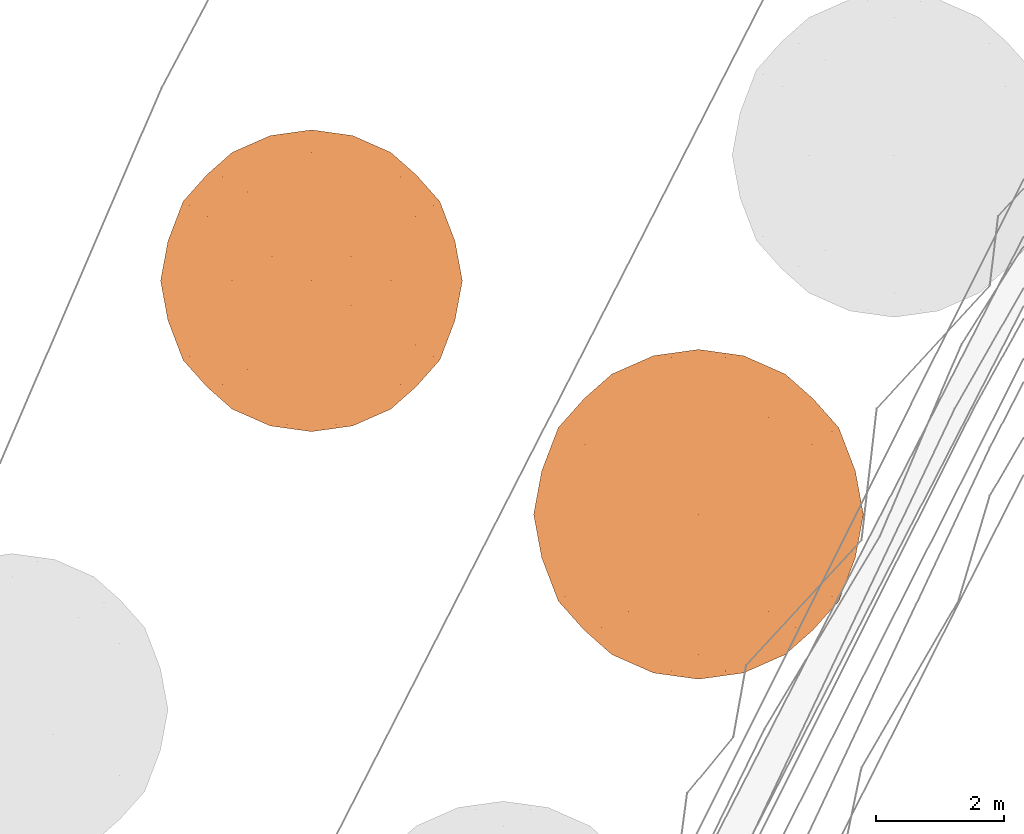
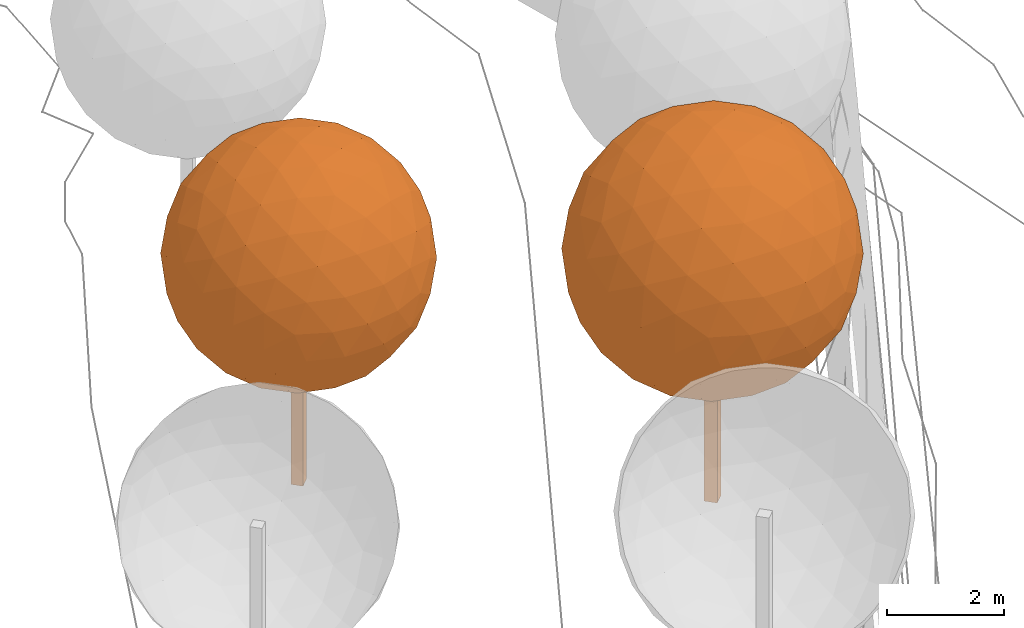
# Not in any storey, part 380 of 477: 2 geographic elements.
"""IFC4 model written with IfcOpenShell, lengths in metres."""

from ifc_helpers import new_model, si_unit, frame, origin_with_axes, place, context, subcontext, project, spatial, polygons, element, save


model = new_model("IFC4")

# Units and contexts
model_context = context("Model", 3, precision=1e-05, world=origin_with_axes())
body_context = subcontext(model_context, "Body", "Model", "MODEL_VIEW")
ifc_project = project(units=[si_unit("AREAUNIT", "SQUARE_METRE"), si_unit("LENGTHUNIT", "METRE")], contexts=[model_context])

# Sites
site_1_placement = place(None, origin_with_axes())
site_1 = spatial("IfcSite", under=ifc_project, at=site_1_placement, Name="Topoexport Site")
site_2_placement = place(site_1_placement, origin_with_axes())
site_2 = spatial("IfcSite", under=site_1, at=site_2_placement, Name="TPX_TREES")

# Geographic elements
geographic_element_1_placement = place(site_2_placement, frame((297.0957320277, 291.1657342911, 539.4397781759), z_axis=(0.0, 0.0, 1.0), x_axis=(1.0, 0.0, 0.0)))
element("IfcGeographicElement", 1, at=geographic_element_1_placement, inside=site_2, Name="Tree TR1 CD47", ObjectType="VEGETATION", PredefinedType="USERDEFINED", context=body_context, shape_type="Tessellation", body=[
    polygons([(0.0, -0.1498275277, 0.0), (-0.1498275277, 0.0, 0.0), (0.0, 0.1498275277, 0.0), (0.1498275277, 0.0, 0.0), (0.0, -0.1498275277, 4.7069706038), (-0.1498275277, 0.0, 4.7069706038), (0.0, 0.1498275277, 4.7069706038), (0.1498275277, 0.0, 4.7069706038)], [[[3, 4, 1]], [[1, 2, 3]], [[5, 8, 7]], [[7, 6, 5]], [[5, 6, 1]], [[1, 6, 2]], [[6, 7, 2]], [[2, 7, 3]], [[8, 5, 4]], [[4, 5, 1]], [[7, 8, 3]], [[3, 8, 4]]]),
    polygons([(-1.2373004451, 2.0019941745, 4.7069706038), (1.2373004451, 2.0019941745, 4.7069706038), (-1.2373004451, -2.0019941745, 4.7069706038), (1.2373004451, -2.0019941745, 4.7069706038), (0.0, -1.2373004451, 6.7089647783), (0.0, 1.2373004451, 6.7089647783), (0.0, -1.2373004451, 2.7049764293), (0.0, 1.2373004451, 2.7049764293), (2.0019941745, 0.0, 3.4696701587), (2.0019941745, 0.0, 5.9442710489), (-2.0019941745, 0.0, 3.4696701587), (-2.0019941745, 0.0, 5.9442710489), (0.0, 2.3534853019, 4.7069706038), (0.0, -2.3534853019, 4.7069706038), (-0.7272669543, -1.9040096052, 5.8837132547), (0.7272669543, -1.9040096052, 5.8837132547), (-0.7272669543, 1.9040096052, 5.8837132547), (0.7272669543, 1.9040096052, 5.8837132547), (0.0, 0.0, 7.0604559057), (-0.7272669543, -1.9040096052, 3.5302279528), (0.7272669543, -1.9040096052, 3.5302279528), (-0.7272669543, 1.9040096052, 3.5302279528), (0.7272669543, 1.9040096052, 3.5302279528), (0.0, 0.0, 2.3534853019), (1.9040096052, 1.1767426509, 3.9797036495), (1.9040096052, -1.1767426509, 3.9797036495), (1.1767426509, -0.7272669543, 2.8029609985), (1.1767426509, 0.7272669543, 2.8029609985), (1.9040096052, 1.1767426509, 5.4342375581), (1.9040096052, -1.1767426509, 5.4342375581), (1.1767426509, -0.7272669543, 6.610980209), (1.1767426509, 0.7272669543, 6.610980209), (2.3534853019, 0.0, 4.7069706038), (-1.9040096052, 1.1767426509, 3.9797036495), (-1.9040096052, -1.1767426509, 3.9797036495), (-1.1767426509, -0.7272669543, 2.8029609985), (-1.1767426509, 0.7272669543, 2.8029609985), (-1.9040096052, 1.1767426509, 5.4342375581), (-1.9040096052, -1.1767426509, 5.4342375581), (-1.1767426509, -0.7272669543, 6.610980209), (-1.1767426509, 0.7272669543, 6.610980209), (-2.3534853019, 0.0, 4.7069706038), (-0.6431287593, 2.2639077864, 4.7069706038), (0.6431287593, 2.2639077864, 4.7069706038), (-0.6431287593, -2.2639077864, 4.7069706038), (0.6431287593, -2.2639077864, 4.7069706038), (-1.0211503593, -2.0302775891, 5.3186224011), (-0.3780216, -1.6328021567, 6.3592265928), (-0.3823468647, -2.2382975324, 5.3256208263), (1.0211503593, -2.0302775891, 5.3186224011), (0.3780216, -1.6328021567, 6.3592265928), (0.3823468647, -2.2382975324, 5.3256208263), (0.0, -2.0019941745, 5.9442710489), (-1.0211503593, 2.0302775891, 5.3186224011), (-0.3780216, 1.6328021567, 6.3592265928), (-0.3823468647, 2.2382975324, 5.3256208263), (1.0211503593, 2.0302775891, 5.3186224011), (0.3780216, 1.6328021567, 6.3592265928), (0.3823468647, 2.2382975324, 5.3256208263), (0.0, 2.0019941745, 5.9442710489), (0.0, -0.6431287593, 6.9708783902), (0.0, 0.6431287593, 6.9708783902), (-1.0211503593, -2.0302775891, 4.0953188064), (-0.3780216, -1.6328021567, 3.0547146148), (-0.3823468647, -2.2382975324, 4.0883203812), (1.0211503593, -2.0302775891, 4.0953188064), (0.3780216, -1.6328021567, 3.0547146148), (0.3823468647, -2.2382975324, 4.0883203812), (0.0, -2.0019941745, 3.4696701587), (-1.0211503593, 2.0302775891, 4.0953188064), (-0.3780216, 1.6328021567, 3.0547146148), (-0.3823468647, 2.2382975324, 4.0883203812), (1.0211503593, 2.0302775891, 4.0953188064), (0.3780216, 1.6328021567, 3.0547146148), (0.3823468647, 2.2382975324, 4.0883203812), (0.0, 2.0019941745, 3.4696701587), (0.0, -0.6431287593, 2.4430628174), (0.0, 0.6431287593, 2.4430628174), (1.6328021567, 1.652255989, 4.3289490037), (2.0302775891, 0.6116517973, 3.6858202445), (1.3833439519, 1.6196473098, 3.7059735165), (1.6328021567, -1.652255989, 4.3289490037), (2.0302775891, -0.6116517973, 3.6858202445), (1.3833439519, -1.6196473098, 3.7059735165), (0.6116517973, -1.0211503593, 2.6766930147), (1.652255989, -0.3780216, 3.0741684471), (1.0009970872, -1.3833439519, 3.087323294), (0.6186502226, -0.3823468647, 2.4686730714), (1.6196473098, -1.0009970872, 3.3236266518), (0.6116517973, 1.0211503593, 2.6766930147), (1.652255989, 0.3780216, 3.0741684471), (1.0009970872, 1.3833439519, 3.087323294), (0.6186502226, 0.3823468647, 2.4686730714), (1.6196473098, 1.0009970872, 3.3236266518), (1.2373004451, 0.0, 2.7049764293), (1.6328021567, 1.652255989, 5.0849922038), (2.0302775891, 0.6116517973, 5.7281209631), (1.3833439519, 1.6196473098, 5.707967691), (2.0019941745, 1.2373004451, 4.7069706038), (1.6328021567, -1.652255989, 5.0849922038), (2.0302775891, -0.6116517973, 5.7281209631), (1.3833439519, -1.6196473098, 5.707967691), (2.0019941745, -1.2373004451, 4.7069706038), (0.6116517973, -1.0211503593, 6.7372481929), (1.652255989, -0.3780216, 6.3397727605), (1.0009970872, -1.3833439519, 6.3266179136), (0.6186502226, -0.3823468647, 6.9452681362), (1.6196473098, -1.0009970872, 6.0903145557), (0.6116517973, 1.0211503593, 6.7372481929), (1.652255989, 0.3780216, 6.3397727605), (1.0009970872, 1.3833439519, 6.3266179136), (0.6186502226, 0.3823468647, 6.9452681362), (1.6196473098, 1.0009970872, 6.0903145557), (1.2373004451, 0.0, 6.7089647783), (2.2639077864, 0.0, 4.0638418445), (2.2639077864, 0.0, 5.3500993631), (2.2382975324, 0.6186502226, 4.3246237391), (2.2382975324, -0.6186502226, 4.3246237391), (2.2382975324, 0.6186502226, 5.0893174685), (2.2382975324, -0.6186502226, 5.0893174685), (-1.6328021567, 1.652255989, 4.3289490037), (-2.0302775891, 0.6116517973, 3.6858202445), (-1.3833439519, 1.6196473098, 3.7059735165), (-1.6328021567, -1.652255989, 4.3289490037), (-2.0302775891, -0.6116517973, 3.6858202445), (-1.3833439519, -1.6196473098, 3.7059735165), (-0.6116517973, -1.0211503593, 2.6766930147), (-1.652255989, -0.3780216, 3.0741684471), (-1.0009970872, -1.3833439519, 3.087323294), (-0.6186502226, -0.3823468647, 2.4686730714), (-1.6196473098, -1.0009970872, 3.3236266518), (-0.6116517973, 1.0211503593, 2.6766930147), (-1.652255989, 0.3780216, 3.0741684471), (-1.0009970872, 1.3833439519, 3.087323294), (-0.6186502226, 0.3823468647, 2.4686730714), (-1.6196473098, 1.0009970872, 3.3236266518), (-1.2373004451, 0.0, 2.7049764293), (-1.6328021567, 1.652255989, 5.0849922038), (-2.0302775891, 0.6116517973, 5.7281209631), (-1.3833439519, 1.6196473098, 5.707967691), (-2.0019941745, 1.2373004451, 4.7069706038), (-1.6328021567, -1.652255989, 5.0849922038), (-2.0302775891, -0.6116517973, 5.7281209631), (-1.3833439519, -1.6196473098, 5.707967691), (-2.0019941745, -1.2373004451, 4.7069706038), (-0.6116517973, -1.0211503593, 6.7372481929), (-1.652255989, -0.3780216, 6.3397727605), (-1.0009970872, -1.3833439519, 6.3266179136), (-0.6186502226, -0.3823468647, 6.9452681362), (-1.6196473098, -1.0009970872, 6.0903145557), (-0.6116517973, 1.0211503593, 6.7372481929), (-1.652255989, 0.3780216, 6.3397727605), (-1.0009970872, 1.3833439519, 6.3266179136), (-0.6186502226, 0.3823468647, 6.9452681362), (-1.6196473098, 1.0009970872, 6.0903145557), (-1.2373004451, 0.0, 6.7089647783), (-2.2639077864, 0.0, 4.0638418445), (-2.2639077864, 0.0, 5.3500993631), (-2.2382975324, 0.6186502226, 4.3246237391), (-2.2382975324, -0.6186502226, 4.3246237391), (-2.2382975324, 0.6186502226, 5.0893174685), (-2.2382975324, -0.6186502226, 5.0893174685)], [[[1, 138, 54]], [[138, 38, 140]], [[54, 140, 17]], [[138, 140, 54]], [[38, 139, 155]], [[139, 12, 152]], [[155, 152, 41]], [[139, 152, 155]], [[17, 153, 55]], [[153, 41, 151]], [[55, 151, 6]], [[153, 151, 55]], [[38, 155, 140]], [[155, 41, 153]], [[140, 153, 17]], [[155, 153, 140]], [[1, 54, 43]], [[54, 17, 56]], [[43, 56, 13]], [[54, 56, 43]], [[17, 55, 60]], [[55, 6, 58]], [[60, 58, 18]], [[55, 58, 60]], [[13, 59, 44]], [[59, 18, 57]], [[44, 57, 2]], [[59, 57, 44]], [[17, 60, 56]], [[60, 18, 59]], [[56, 59, 13]], [[60, 59, 56]], [[1, 43, 70]], [[43, 13, 72]], [[70, 72, 22]], [[43, 72, 70]], [[13, 44, 75]], [[44, 2, 73]], [[75, 73, 23]], [[44, 73, 75]], [[22, 76, 71]], [[76, 23, 74]], [[71, 74, 8]], [[76, 74, 71]], [[13, 75, 72]], [[75, 23, 76]], [[72, 76, 22]], [[75, 76, 72]], [[1, 70, 121]], [[70, 22, 123]], [[121, 123, 34]], [[70, 123, 121]], [[22, 71, 134]], [[71, 8, 132]], [[134, 132, 37]], [[71, 132, 134]], [[34, 136, 122]], [[136, 37, 133]], [[122, 133, 11]], [[136, 133, 122]], [[22, 134, 123]], [[134, 37, 136]], [[123, 136, 34]], [[134, 136, 123]], [[1, 121, 138]], [[121, 34, 141]], [[138, 141, 38]], [[121, 141, 138]], [[34, 122, 159]], [[122, 11, 157]], [[159, 157, 42]], [[122, 157, 159]], [[38, 161, 139]], [[161, 42, 158]], [[139, 158, 12]], [[161, 158, 139]], [[34, 159, 141]], [[159, 42, 161]], [[141, 161, 38]], [[159, 161, 141]], [[2, 57, 96]], [[57, 18, 98]], [[96, 98, 29]], [[57, 98, 96]], [[18, 58, 111]], [[58, 6, 109]], [[111, 109, 32]], [[58, 109, 111]], [[29, 113, 97]], [[113, 32, 110]], [[97, 110, 10]], [[113, 110, 97]], [[18, 111, 98]], [[111, 32, 113]], [[98, 113, 29]], [[111, 113, 98]], [[6, 151, 62]], [[151, 41, 154]], [[62, 154, 19]], [[151, 154, 62]], [[41, 152, 156]], [[152, 12, 147]], [[156, 147, 40]], [[152, 147, 156]], [[19, 149, 61]], [[149, 40, 146]], [[61, 146, 5]], [[149, 146, 61]], [[41, 156, 154]], [[156, 40, 149]], [[154, 149, 19]], [[156, 149, 154]], [[12, 158, 143]], [[158, 42, 162]], [[143, 162, 39]], [[158, 162, 143]], [[42, 157, 160]], [[157, 11, 125]], [[160, 125, 35]], [[157, 125, 160]], [[39, 145, 142]], [[145, 35, 124]], [[142, 124, 3]], [[145, 124, 142]], [[42, 160, 162]], [[160, 35, 145]], [[162, 145, 39]], [[160, 145, 162]], [[11, 133, 128]], [[133, 37, 137]], [[128, 137, 36]], [[133, 137, 128]], [[37, 132, 135]], [[132, 8, 78]], [[135, 78, 24]], [[132, 78, 135]], [[36, 130, 127]], [[130, 24, 77]], [[127, 77, 7]], [[130, 77, 127]], [[37, 135, 137]], [[135, 24, 130]], [[137, 130, 36]], [[135, 130, 137]], [[8, 74, 90]], [[74, 23, 92]], [[90, 92, 28]], [[74, 92, 90]], [[23, 73, 81]], [[73, 2, 79]], [[81, 79, 25]], [[73, 79, 81]], [[28, 94, 91]], [[94, 25, 80]], [[91, 80, 9]], [[94, 80, 91]], [[23, 81, 92]], [[81, 25, 94]], [[92, 94, 28]], [[81, 94, 92]], [[4, 100, 50]], [[100, 30, 102]], [[50, 102, 16]], [[100, 102, 50]], [[30, 101, 108]], [[101, 10, 105]], [[108, 105, 31]], [[101, 105, 108]], [[16, 106, 51]], [[106, 31, 104]], [[51, 104, 5]], [[106, 104, 51]], [[30, 108, 102]], [[108, 31, 106]], [[102, 106, 16]], [[108, 106, 102]], [[4, 50, 46]], [[50, 16, 52]], [[46, 52, 14]], [[50, 52, 46]], [[16, 51, 53]], [[51, 5, 48]], [[53, 48, 15]], [[51, 48, 53]], [[14, 49, 45]], [[49, 15, 47]], [[45, 47, 3]], [[49, 47, 45]], [[16, 53, 52]], [[53, 15, 49]], [[52, 49, 14]], [[53, 49, 52]], [[4, 46, 66]], [[46, 14, 68]], [[66, 68, 21]], [[46, 68, 66]], [[14, 45, 65]], [[45, 3, 63]], [[65, 63, 20]], [[45, 63, 65]], [[21, 69, 67]], [[69, 20, 64]], [[67, 64, 7]], [[69, 64, 67]], [[14, 65, 68]], [[65, 20, 69]], [[68, 69, 21]], [[65, 69, 68]], [[4, 66, 82]], [[66, 21, 84]], [[82, 84, 26]], [[66, 84, 82]], [[21, 67, 87]], [[67, 7, 85]], [[87, 85, 27]], [[67, 85, 87]], [[26, 89, 83]], [[89, 27, 86]], [[83, 86, 9]], [[89, 86, 83]], [[21, 87, 84]], [[87, 27, 89]], [[84, 89, 26]], [[87, 89, 84]], [[4, 82, 100]], [[82, 26, 103]], [[100, 103, 30]], [[82, 103, 100]], [[26, 83, 118]], [[83, 9, 115]], [[118, 115, 33]], [[83, 115, 118]], [[30, 120, 101]], [[120, 33, 116]], [[101, 116, 10]], [[120, 116, 101]], [[26, 118, 103]], [[118, 33, 120]], [[103, 120, 30]], [[118, 120, 103]], [[5, 104, 61]], [[104, 31, 107]], [[61, 107, 19]], [[104, 107, 61]], [[31, 105, 114]], [[105, 10, 110]], [[114, 110, 32]], [[105, 110, 114]], [[19, 112, 62]], [[112, 32, 109]], [[62, 109, 6]], [[112, 109, 62]], [[31, 114, 107]], [[114, 32, 112]], [[107, 112, 19]], [[114, 112, 107]], [[3, 47, 142]], [[47, 15, 144]], [[142, 144, 39]], [[47, 144, 142]], [[15, 48, 148]], [[48, 5, 146]], [[148, 146, 40]], [[48, 146, 148]], [[39, 150, 143]], [[150, 40, 147]], [[143, 147, 12]], [[150, 147, 143]], [[15, 148, 144]], [[148, 40, 150]], [[144, 150, 39]], [[148, 150, 144]], [[7, 64, 127]], [[64, 20, 129]], [[127, 129, 36]], [[64, 129, 127]], [[20, 63, 126]], [[63, 3, 124]], [[126, 124, 35]], [[63, 124, 126]], [[36, 131, 128]], [[131, 35, 125]], [[128, 125, 11]], [[131, 125, 128]], [[20, 126, 129]], [[126, 35, 131]], [[129, 131, 36]], [[126, 131, 129]], [[9, 86, 91]], [[86, 27, 95]], [[91, 95, 28]], [[86, 95, 91]], [[27, 85, 88]], [[85, 7, 77]], [[88, 77, 24]], [[85, 77, 88]], [[28, 93, 90]], [[93, 24, 78]], [[90, 78, 8]], [[93, 78, 90]], [[27, 88, 95]], [[88, 24, 93]], [[95, 93, 28]], [[88, 93, 95]], [[10, 116, 97]], [[116, 33, 119]], [[97, 119, 29]], [[116, 119, 97]], [[33, 115, 117]], [[115, 9, 80]], [[117, 80, 25]], [[115, 80, 117]], [[29, 99, 96]], [[99, 25, 79]], [[96, 79, 2]], [[99, 79, 96]], [[33, 117, 119]], [[117, 25, 99]], [[119, 99, 29]], [[117, 99, 119]]]),
])
geographic_element_2_placement = place(site_2_placement, frame((303.1327320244, 287.5227343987, 539.1934106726), z_axis=(0.0, 0.0, 1.0), x_axis=(1.0, 0.0, 0.0)))
element("IfcGeographicElement", 2, at=geographic_element_2_placement, inside=site_2, Name="Tree TR1 CD51", ObjectType="VEGETATION", PredefinedType="USERDEFINED", context=body_context, shape_type="Tessellation", body=[
    polygons([(0.0, -0.1637239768, 0.0), (-0.1637239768, 0.0, 0.0), (0.0, 0.1637239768, 0.0), (0.1637239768, 0.0, 0.0), (0.0, -0.1637239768, 5.1435404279), (-0.1637239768, 0.0, 5.1435404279), (0.0, 0.1637239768, 5.1435404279), (0.1637239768, 0.0, 5.1435404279)], [[[3, 4, 1]], [[1, 2, 3]], [[5, 8, 7]], [[7, 6, 5]], [[5, 6, 1]], [[1, 6, 2]], [[6, 7, 2]], [[2, 7, 3]], [[8, 5, 4]], [[4, 5, 1]], [[7, 8, 3]], [[3, 8, 4]]]),
    polygons([(-1.3520596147, 2.1876784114, 5.1435404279), (1.3520596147, 2.1876784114, 5.1435404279), (-1.3520596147, -2.1876784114, 5.1435404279), (1.3520596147, -2.1876784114, 5.1435404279), (0.0, -1.3520596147, 7.3312188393), (0.0, 1.3520596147, 7.3312188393), (0.0, -1.3520596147, 2.9558620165), (0.0, 1.3520596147, 2.9558620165), (2.1876784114, 0.0, 3.7914808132), (2.1876784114, 0.0, 6.4956000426), (-2.1876784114, 0.0, 3.7914808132), (-2.1876784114, 0.0, 6.4956000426), (0.0, 2.5717702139, 5.1435404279), (0.0, -2.5717702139, 5.1435404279), (-0.7947207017, -2.0806058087, 6.4294255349), (0.7947207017, -2.0806058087, 6.4294255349), (-0.7947207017, 2.0806058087, 6.4294255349), (0.7947207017, 2.0806058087, 6.4294255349), (0.0, 0.0, 7.7153106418), (-0.7947207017, -2.0806058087, 3.8576553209), (0.7947207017, -2.0806058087, 3.8576553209), (-0.7947207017, 2.0806058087, 3.8576553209), (0.7947207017, 2.0806058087, 3.8576553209), (0.0, 0.0, 2.5717702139), (2.0806058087, 1.285885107, 4.3488197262), (2.0806058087, -1.285885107, 4.3488197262), (1.285885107, -0.7947207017, 3.0629346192), (1.285885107, 0.7947207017, 3.0629346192), (2.0806058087, 1.285885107, 5.9382611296), (2.0806058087, -1.285885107, 5.9382611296), (1.285885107, -0.7947207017, 7.2241462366), (1.285885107, 0.7947207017, 7.2241462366), (2.5717702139, 0.0, 5.1435404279), (-2.0806058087, 1.285885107, 4.3488197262), (-2.0806058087, -1.285885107, 4.3488197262), (-1.285885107, -0.7947207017, 3.0629346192), (-1.285885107, 0.7947207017, 3.0629346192), (-2.0806058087, 1.285885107, 5.9382611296), (-2.0806058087, -1.285885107, 5.9382611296), (-1.285885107, -0.7947207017, 7.2241462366), (-1.285885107, 0.7947207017, 7.2241462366), (-2.5717702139, 0.0, 5.1435404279), (-0.7027787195, 2.4738844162, 5.1435404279), (0.7027787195, 2.4738844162, 5.1435404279), (-0.7027787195, -2.4738844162, 5.1435404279), (0.7027787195, -2.4738844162, 5.1435404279), (-1.1158616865, -2.2185851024, 5.8119227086), (-0.413082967, -1.7842439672, 6.9490425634), (-0.4178093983, -2.4458988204, 5.8195702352), (1.1158616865, -2.2185851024, 5.8119227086), (0.413082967, -1.7842439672, 6.9490425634), (0.4178093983, -2.4458988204, 5.8195702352), (0.0, -2.1876784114, 6.4956000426), (-1.1158616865, 2.2185851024, 5.8119227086), (-0.413082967, 1.7842439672, 6.9490425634), (-0.4178093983, 2.4458988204, 5.8195702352), (1.1158616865, 2.2185851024, 5.8119227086), (0.413082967, 1.7842439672, 6.9490425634), (0.4178093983, 2.4458988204, 5.8195702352), (0.0, 2.1876784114, 6.4956000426), (0.0, -0.7027787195, 7.6174248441), (0.0, 0.7027787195, 7.6174248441), (-1.1158616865, -2.2185851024, 4.4751581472), (-0.413082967, -1.7842439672, 3.3380382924), (-0.4178093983, -2.4458988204, 4.4675106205), (1.1158616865, -2.2185851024, 4.4751581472), (0.413082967, -1.7842439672, 3.3380382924), (0.4178093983, -2.4458988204, 4.4675106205), (0.0, -2.1876784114, 3.7914808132), (-1.1158616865, 2.2185851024, 4.4751581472), (-0.413082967, 1.7842439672, 3.3380382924), (-0.4178093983, 2.4458988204, 4.4675106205), (1.1158616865, 2.2185851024, 4.4751581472), (0.413082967, 1.7842439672, 3.3380382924), (0.4178093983, 2.4458988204, 4.4675106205), (0.0, 2.1876784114, 3.7914808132), (0.0, -0.7027787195, 2.6696560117), (0.0, 0.7027787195, 2.6696560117), (1.7842439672, 1.8055021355, 4.7304574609), (2.2185851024, 0.6683822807, 4.0276787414), (1.511648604, 1.769869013, 4.0497012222), (1.7842439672, -1.8055021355, 4.7304574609), (2.2185851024, -0.6683822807, 4.0276787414), (1.511648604, -1.769869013, 4.0497012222), (0.6683822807, -1.1158616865, 2.9249553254), (1.8055021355, -0.413082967, 3.3592964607), (1.0938392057, -1.511648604, 3.3736714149), (0.6760298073, -0.4178093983, 2.6976416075), (1.769869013, -1.0938392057, 3.6318918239), (0.6683822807, 1.1158616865, 2.9249553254), (1.8055021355, 0.413082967, 3.3592964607), (1.0938392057, 1.511648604, 3.3736714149), (0.6760298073, 0.4178093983, 2.6976416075), (1.769869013, 1.0938392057, 3.6318918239), (1.3520596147, 0.0, 2.9558620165), (1.7842439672, 1.8055021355, 5.5566233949), (2.2185851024, 0.6683822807, 6.2594021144), (1.511648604, 1.769869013, 6.2373796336), (2.1876784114, 1.3520596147, 5.1435404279), (1.7842439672, -1.8055021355, 5.5566233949), (2.2185851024, -0.6683822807, 6.2594021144), (1.511648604, -1.769869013, 6.2373796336), (2.1876784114, -1.3520596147, 5.1435404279), (0.6683822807, -1.1158616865, 7.3621255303), (1.8055021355, -0.413082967, 6.9277843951), (1.0938392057, -1.511648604, 6.9134094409), (0.6760298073, -0.4178093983, 7.5894392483), (1.769869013, -1.0938392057, 6.6551890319), (0.6683822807, 1.1158616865, 7.3621255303), (1.8055021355, 0.413082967, 6.9277843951), (1.0938392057, 1.511648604, 6.9134094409), (0.6760298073, 0.4178093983, 7.5894392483), (1.769869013, 1.0938392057, 6.6551890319), (1.3520596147, 0.0, 7.3312188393), (2.4738844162, 0.0, 4.4407617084), (2.4738844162, 0.0, 5.8463191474), (2.4458988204, 0.6760298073, 4.7257310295), (2.4458988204, -0.6760298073, 4.7257310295), (2.4458988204, 0.6760298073, 5.5613498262), (2.4458988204, -0.6760298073, 5.5613498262), (-1.7842439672, 1.8055021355, 4.7304574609), (-2.2185851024, 0.6683822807, 4.0276787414), (-1.511648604, 1.769869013, 4.0497012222), (-1.7842439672, -1.8055021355, 4.7304574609), (-2.2185851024, -0.6683822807, 4.0276787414), (-1.511648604, -1.769869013, 4.0497012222), (-0.6683822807, -1.1158616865, 2.9249553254), (-1.8055021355, -0.413082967, 3.3592964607), (-1.0938392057, -1.511648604, 3.3736714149), (-0.6760298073, -0.4178093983, 2.6976416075), (-1.769869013, -1.0938392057, 3.6318918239), (-0.6683822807, 1.1158616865, 2.9249553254), (-1.8055021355, 0.413082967, 3.3592964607), (-1.0938392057, 1.511648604, 3.3736714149), (-0.6760298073, 0.4178093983, 2.6976416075), (-1.769869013, 1.0938392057, 3.6318918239), (-1.3520596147, 0.0, 2.9558620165), (-1.7842439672, 1.8055021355, 5.5566233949), (-2.2185851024, 0.6683822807, 6.2594021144), (-1.511648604, 1.769869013, 6.2373796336), (-2.1876784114, 1.3520596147, 5.1435404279), (-1.7842439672, -1.8055021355, 5.5566233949), (-2.2185851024, -0.6683822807, 6.2594021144), (-1.511648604, -1.769869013, 6.2373796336), (-2.1876784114, -1.3520596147, 5.1435404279), (-0.6683822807, -1.1158616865, 7.3621255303), (-1.8055021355, -0.413082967, 6.9277843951), (-1.0938392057, -1.511648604, 6.9134094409), (-0.6760298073, -0.4178093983, 7.5894392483), (-1.769869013, -1.0938392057, 6.6551890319), (-0.6683822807, 1.1158616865, 7.3621255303), (-1.8055021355, 0.413082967, 6.9277843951), (-1.0938392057, 1.511648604, 6.9134094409), (-0.6760298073, 0.4178093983, 7.5894392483), (-1.769869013, 1.0938392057, 6.6551890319), (-1.3520596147, 0.0, 7.3312188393), (-2.4738844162, 0.0, 4.4407617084), (-2.4738844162, 0.0, 5.8463191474), (-2.4458988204, 0.6760298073, 4.7257310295), (-2.4458988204, -0.6760298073, 4.7257310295), (-2.4458988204, 0.6760298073, 5.5613498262), (-2.4458988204, -0.6760298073, 5.5613498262)], [[[1, 138, 54]], [[138, 38, 140]], [[54, 140, 17]], [[138, 140, 54]], [[38, 139, 155]], [[139, 12, 152]], [[155, 152, 41]], [[139, 152, 155]], [[17, 153, 55]], [[153, 41, 151]], [[55, 151, 6]], [[153, 151, 55]], [[38, 155, 140]], [[155, 41, 153]], [[140, 153, 17]], [[155, 153, 140]], [[1, 54, 43]], [[54, 17, 56]], [[43, 56, 13]], [[54, 56, 43]], [[17, 55, 60]], [[55, 6, 58]], [[60, 58, 18]], [[55, 58, 60]], [[13, 59, 44]], [[59, 18, 57]], [[44, 57, 2]], [[59, 57, 44]], [[17, 60, 56]], [[60, 18, 59]], [[56, 59, 13]], [[60, 59, 56]], [[1, 43, 70]], [[43, 13, 72]], [[70, 72, 22]], [[43, 72, 70]], [[13, 44, 75]], [[44, 2, 73]], [[75, 73, 23]], [[44, 73, 75]], [[22, 76, 71]], [[76, 23, 74]], [[71, 74, 8]], [[76, 74, 71]], [[13, 75, 72]], [[75, 23, 76]], [[72, 76, 22]], [[75, 76, 72]], [[1, 70, 121]], [[70, 22, 123]], [[121, 123, 34]], [[70, 123, 121]], [[22, 71, 134]], [[71, 8, 132]], [[134, 132, 37]], [[71, 132, 134]], [[34, 136, 122]], [[136, 37, 133]], [[122, 133, 11]], [[136, 133, 122]], [[22, 134, 123]], [[134, 37, 136]], [[123, 136, 34]], [[134, 136, 123]], [[1, 121, 138]], [[121, 34, 141]], [[138, 141, 38]], [[121, 141, 138]], [[34, 122, 159]], [[122, 11, 157]], [[159, 157, 42]], [[122, 157, 159]], [[38, 161, 139]], [[161, 42, 158]], [[139, 158, 12]], [[161, 158, 139]], [[34, 159, 141]], [[159, 42, 161]], [[141, 161, 38]], [[159, 161, 141]], [[2, 57, 96]], [[57, 18, 98]], [[96, 98, 29]], [[57, 98, 96]], [[18, 58, 111]], [[58, 6, 109]], [[111, 109, 32]], [[58, 109, 111]], [[29, 113, 97]], [[113, 32, 110]], [[97, 110, 10]], [[113, 110, 97]], [[18, 111, 98]], [[111, 32, 113]], [[98, 113, 29]], [[111, 113, 98]], [[6, 151, 62]], [[151, 41, 154]], [[62, 154, 19]], [[151, 154, 62]], [[41, 152, 156]], [[152, 12, 147]], [[156, 147, 40]], [[152, 147, 156]], [[19, 149, 61]], [[149, 40, 146]], [[61, 146, 5]], [[149, 146, 61]], [[41, 156, 154]], [[156, 40, 149]], [[154, 149, 19]], [[156, 149, 154]], [[12, 158, 143]], [[158, 42, 162]], [[143, 162, 39]], [[158, 162, 143]], [[42, 157, 160]], [[157, 11, 125]], [[160, 125, 35]], [[157, 125, 160]], [[39, 145, 142]], [[145, 35, 124]], [[142, 124, 3]], [[145, 124, 142]], [[42, 160, 162]], [[160, 35, 145]], [[162, 145, 39]], [[160, 145, 162]], [[11, 133, 128]], [[133, 37, 137]], [[128, 137, 36]], [[133, 137, 128]], [[37, 132, 135]], [[132, 8, 78]], [[135, 78, 24]], [[132, 78, 135]], [[36, 130, 127]], [[130, 24, 77]], [[127, 77, 7]], [[130, 77, 127]], [[37, 135, 137]], [[135, 24, 130]], [[137, 130, 36]], [[135, 130, 137]], [[8, 74, 90]], [[74, 23, 92]], [[90, 92, 28]], [[74, 92, 90]], [[23, 73, 81]], [[73, 2, 79]], [[81, 79, 25]], [[73, 79, 81]], [[28, 94, 91]], [[94, 25, 80]], [[91, 80, 9]], [[94, 80, 91]], [[23, 81, 92]], [[81, 25, 94]], [[92, 94, 28]], [[81, 94, 92]], [[4, 100, 50]], [[100, 30, 102]], [[50, 102, 16]], [[100, 102, 50]], [[30, 101, 108]], [[101, 10, 105]], [[108, 105, 31]], [[101, 105, 108]], [[16, 106, 51]], [[106, 31, 104]], [[51, 104, 5]], [[106, 104, 51]], [[30, 108, 102]], [[108, 31, 106]], [[102, 106, 16]], [[108, 106, 102]], [[4, 50, 46]], [[50, 16, 52]], [[46, 52, 14]], [[50, 52, 46]], [[16, 51, 53]], [[51, 5, 48]], [[53, 48, 15]], [[51, 48, 53]], [[14, 49, 45]], [[49, 15, 47]], [[45, 47, 3]], [[49, 47, 45]], [[16, 53, 52]], [[53, 15, 49]], [[52, 49, 14]], [[53, 49, 52]], [[4, 46, 66]], [[46, 14, 68]], [[66, 68, 21]], [[46, 68, 66]], [[14, 45, 65]], [[45, 3, 63]], [[65, 63, 20]], [[45, 63, 65]], [[21, 69, 67]], [[69, 20, 64]], [[67, 64, 7]], [[69, 64, 67]], [[14, 65, 68]], [[65, 20, 69]], [[68, 69, 21]], [[65, 69, 68]], [[4, 66, 82]], [[66, 21, 84]], [[82, 84, 26]], [[66, 84, 82]], [[21, 67, 87]], [[67, 7, 85]], [[87, 85, 27]], [[67, 85, 87]], [[26, 89, 83]], [[89, 27, 86]], [[83, 86, 9]], [[89, 86, 83]], [[21, 87, 84]], [[87, 27, 89]], [[84, 89, 26]], [[87, 89, 84]], [[4, 82, 100]], [[82, 26, 103]], [[100, 103, 30]], [[82, 103, 100]], [[26, 83, 118]], [[83, 9, 115]], [[118, 115, 33]], [[83, 115, 118]], [[30, 120, 101]], [[120, 33, 116]], [[101, 116, 10]], [[120, 116, 101]], [[26, 118, 103]], [[118, 33, 120]], [[103, 120, 30]], [[118, 120, 103]], [[5, 104, 61]], [[104, 31, 107]], [[61, 107, 19]], [[104, 107, 61]], [[31, 105, 114]], [[105, 10, 110]], [[114, 110, 32]], [[105, 110, 114]], [[19, 112, 62]], [[112, 32, 109]], [[62, 109, 6]], [[112, 109, 62]], [[31, 114, 107]], [[114, 32, 112]], [[107, 112, 19]], [[114, 112, 107]], [[3, 47, 142]], [[47, 15, 144]], [[142, 144, 39]], [[47, 144, 142]], [[15, 48, 148]], [[48, 5, 146]], [[148, 146, 40]], [[48, 146, 148]], [[39, 150, 143]], [[150, 40, 147]], [[143, 147, 12]], [[150, 147, 143]], [[15, 148, 144]], [[148, 40, 150]], [[144, 150, 39]], [[148, 150, 144]], [[7, 64, 127]], [[64, 20, 129]], [[127, 129, 36]], [[64, 129, 127]], [[20, 63, 126]], [[63, 3, 124]], [[126, 124, 35]], [[63, 124, 126]], [[36, 131, 128]], [[131, 35, 125]], [[128, 125, 11]], [[131, 125, 128]], [[20, 126, 129]], [[126, 35, 131]], [[129, 131, 36]], [[126, 131, 129]], [[9, 86, 91]], [[86, 27, 95]], [[91, 95, 28]], [[86, 95, 91]], [[27, 85, 88]], [[85, 7, 77]], [[88, 77, 24]], [[85, 77, 88]], [[28, 93, 90]], [[93, 24, 78]], [[90, 78, 8]], [[93, 78, 90]], [[27, 88, 95]], [[88, 24, 93]], [[95, 93, 28]], [[88, 93, 95]], [[10, 116, 97]], [[116, 33, 119]], [[97, 119, 29]], [[116, 119, 97]], [[33, 115, 117]], [[115, 9, 80]], [[117, 80, 25]], [[115, 80, 117]], [[29, 99, 96]], [[99, 25, 79]], [[96, 79, 2]], [[99, 79, 96]], [[33, 117, 119]], [[117, 25, 99]], [[119, 99, 29]], [[117, 99, 119]]]),
])

save(model, "model.ifc")
